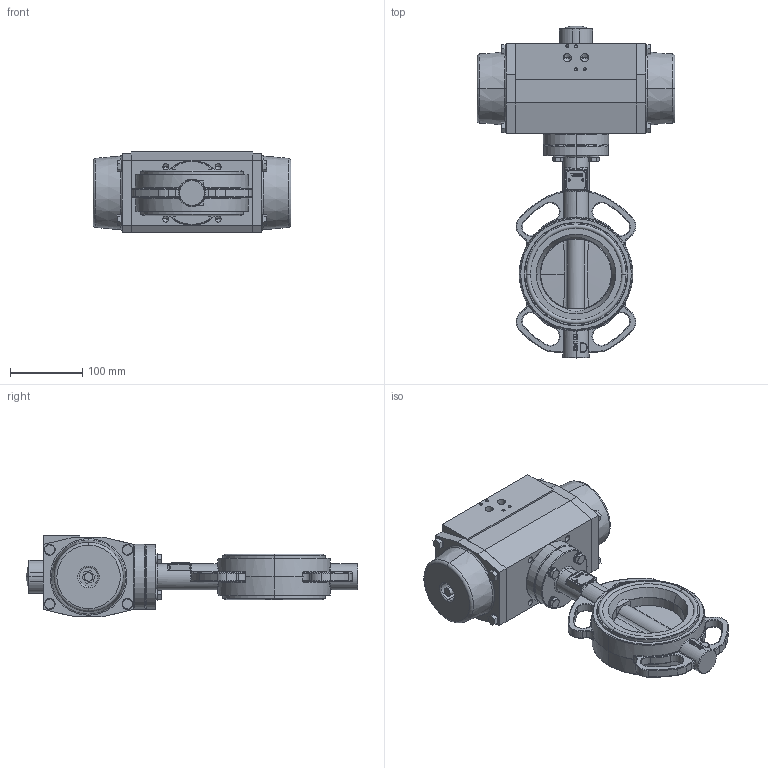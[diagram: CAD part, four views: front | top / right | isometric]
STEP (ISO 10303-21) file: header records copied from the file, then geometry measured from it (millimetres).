
FILE_DESCRIPTION (( 'STEP AP214' ), '1' );
FILE_NAME ('VTB200 DN100 + AP4S.STEP', '2015-10-04T19:18:41', ( '' ), ( '' ), 'SwSTEP 2.0', 'SolidWorks 2013', '' );
FILE_SCHEMA (( 'AUTOMOTIVE_DESIGN' ));
Length unit declared in the file: millimetre
Products named in the file (10): YF090F5F7H16D16NYL; VTB200 Wafer DN100 BS; Typeplaatje xxmm; Klep VTB200 DN100 2013; Huis met zitting DN100 2013; VTB200 DN100 + AP4S; hex bolt gradec_din_ISO 4016 - M8 x 40 x 22-WN; plain washer clevis pin grade a_din_Washer ISO 8738 - 8; Verloopster 17_11; AP4_Default<As Machined>
Assembly tree (15 placements, depth 3):
  VTB200 DN100 + AP4S
    VTB200 Wafer DN100 BS
      Huis met zitting DN100 2013
      Klep VTB200 DN100 2013
      Typeplaatje xxmm
    YF090F5F7H16D16NYL
    AP4_Default<As Machined>
    Verloopster 17_11
    plain washer clevis pin grade a_din_Washer ISO 8738 - 8  x4
    hex bolt gradec_din_ISO 4016 - M8 x 40 x 22-WN  x4
Bounding box: 273.5 x 459.01 x 112.5 mm (x, y, z)
Volume: 4264396 mm3; surface area: 421329.8 mm2
Topology: 26 solids, 26 shells, 1259 faces, 3028 edges, 1839 vertices
Faces by surface type: plane 456, cylinder 310, bspline 199, torus 180, cone 92, sphere 22
Entity records: 53141 total; most frequent: CARTESIAN_POINT 23222, ORIENTED_EDGE 5540, DIRECTION 5319, EDGE_CURVE 2770, AXIS2_PLACEMENT_3D 2109, VERTEX_POINT 1719, EDGE_LOOP 1277, ADVANCED_FACE 1160
